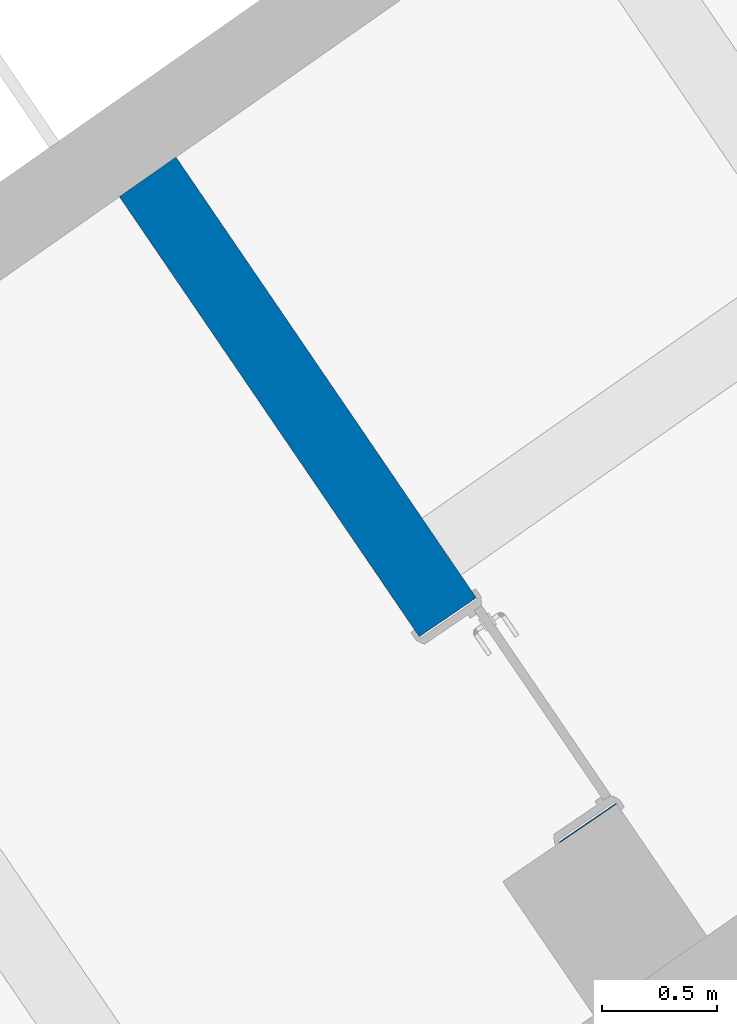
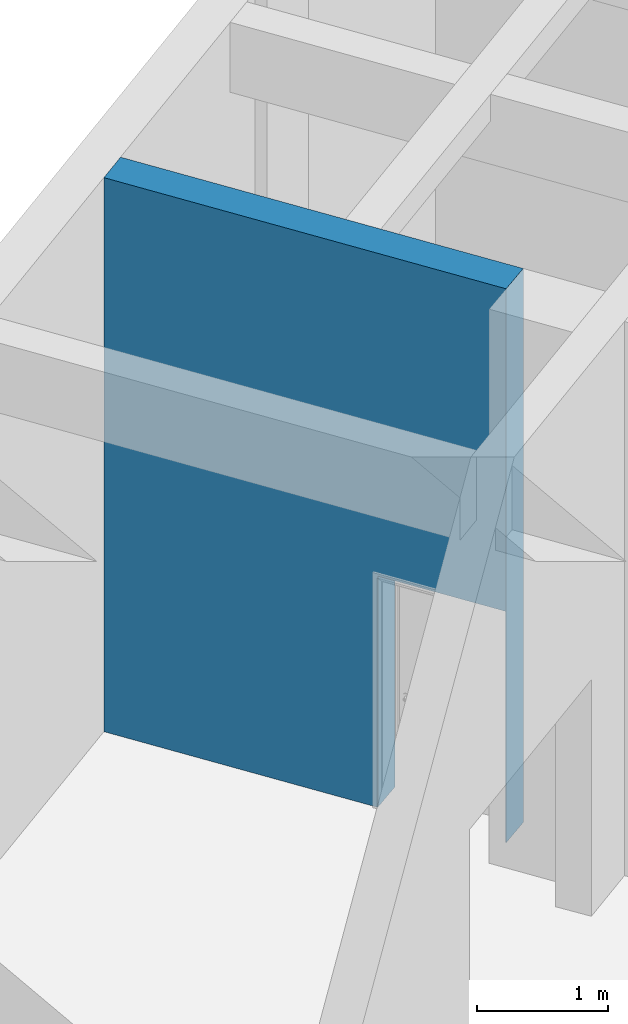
# One storey, part 94 of 157: 1 wall, 1 opening.
"""IFC2X3 building model written with IfcOpenShell, lengths in millimetres."""

from ifc_helpers import new_model, entity, si_unit, converted_unit, derived_unit, direction, frame, frame_2d, origin, place, context, subcontext, project, spatial, polyline, rectangle, outline, extrude, material, layer, layer_set, layer_usage, type_object, element, save


model = new_model("IFC2X3")

# Units and contexts
model_context = context("Model", 3, precision=0.01, world=origin(), true_north=direction((6.123031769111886e-17, 1.0)))
body_context = subcontext(model_context, "Body", "Model", "MODEL_VIEW")
ifc_project = project(units=[si_unit("LENGTHUNIT", "METRE", prefix="MILLI"), si_unit("AREAUNIT", "SQUARE_METRE"), si_unit("VOLUMEUNIT", "CUBIC_METRE"), converted_unit("PLANEANGLEUNIT", "DEGREE", entity("IfcRatioMeasure", 0.017453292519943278), si_unit("PLANEANGLEUNIT", "RADIAN"), dimensions=[0, 0, 0, 0, 0, 0, 0]), si_unit("MASSUNIT", "GRAM", prefix="KILO"), derived_unit("MASSDENSITYUNIT", [(si_unit("MASSUNIT", "GRAM", prefix="KILO"), 1), (si_unit("LENGTHUNIT", "METRE"), -3)]), derived_unit("MOMENTOFINERTIAUNIT", [(si_unit("LENGTHUNIT", "METRE"), 4)]), si_unit("TIMEUNIT", "SECOND"), si_unit("FREQUENCYUNIT", "HERTZ"), si_unit("THERMODYNAMICTEMPERATUREUNIT", "DEGREE_CELSIUS"), derived_unit("THERMALTRANSMITTANCEUNIT", [(si_unit("MASSUNIT", "GRAM", prefix="KILO"), 1), (si_unit("THERMODYNAMICTEMPERATUREUNIT", "KELVIN"), -1), (si_unit("TIMEUNIT", "SECOND"), -3)]), derived_unit("THERMALCONDUCTANCEUNIT", [(si_unit("MASSUNIT", "GRAM", prefix="KILO"), 1), (si_unit("LENGTHUNIT", "METRE"), 1), (si_unit("THERMODYNAMICTEMPERATUREUNIT", "KELVIN"), -1), (si_unit("TIMEUNIT", "SECOND"), -3)]), derived_unit("VOLUMETRICFLOWRATEUNIT", [(si_unit("LENGTHUNIT", "METRE"), 3), (si_unit("TIMEUNIT", "SECOND"), -1)]), derived_unit("MASSFLOWRATEUNIT", [(si_unit("MASSUNIT", "GRAM", prefix="KILO"), 1), (si_unit("TIMEUNIT", "SECOND"), -1)]), derived_unit("ROTATIONALFREQUENCYUNIT", [(si_unit("TIMEUNIT", "SECOND"), -1)]), si_unit("ELECTRICCURRENTUNIT", "AMPERE"), si_unit("ELECTRICVOLTAGEUNIT", "VOLT"), si_unit("POWERUNIT", "WATT"), converted_unit("FORCEUNIT", "KIP", entity("IfcRatioMeasure", 2.088543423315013e-05), si_unit("FORCEUNIT", "NEWTON"), dimensions=[1, 1, -2, 0, 0, 0, 0]), si_unit("ILLUMINANCEUNIT", "LUX"), si_unit("LUMINOUSFLUXUNIT", "LUMEN"), si_unit("LUMINOUSINTENSITYUNIT", "CANDELA"), derived_unit("USERDEFINED", [(si_unit("MASSUNIT", "GRAM", prefix="KILO"), -1), (si_unit("LENGTHUNIT", "METRE"), -2), (si_unit("TIMEUNIT", "SECOND"), 3), (si_unit("LUMINOUSFLUXUNIT", "LUMEN"), 1)]), derived_unit("USERDEFINED", [(si_unit("MASSUNIT", "GRAM", prefix="KILO"), 1), (si_unit("LENGTHUNIT", "METRE"), 3), (si_unit("TIMEUNIT", "SECOND"), -3), (si_unit("ELECTRICCURRENTUNIT", "AMPERE"), -2)]), derived_unit("USERDEFINED", [(si_unit("LENGTHUNIT", "METRE"), 2), (si_unit("TIMEUNIT", "SECOND"), -2)]), derived_unit("SOUNDPOWERUNIT", [(si_unit("MASSUNIT", "GRAM", prefix="KILO"), 1), (si_unit("LENGTHUNIT", "METRE"), 2), (si_unit("TIMEUNIT", "SECOND"), -3)]), derived_unit("SOUNDPRESSUREUNIT", [(si_unit("MASSUNIT", "GRAM", prefix="KILO"), 1), (si_unit("LENGTHUNIT", "METRE"), -1), (si_unit("TIMEUNIT", "SECOND"), -2)]), derived_unit("LINEARVELOCITYUNIT", [(si_unit("LENGTHUNIT", "METRE"), 1), (si_unit("TIMEUNIT", "SECOND"), -1)]), si_unit("PRESSUREUNIT", "PASCAL"), derived_unit("USERDEFINED", [(si_unit("LENGTHUNIT", "METRE"), -2), (si_unit("MASSUNIT", "GRAM", prefix="KILO"), 1), (si_unit("TIMEUNIT", "SECOND"), -2)]), derived_unit("LINEARFORCEUNIT", [(si_unit("MASSUNIT", "GRAM", prefix="KILO"), 1), (si_unit("LENGTHUNIT", "METRE"), 1), (si_unit("TIMEUNIT", "SECOND"), -2), (si_unit("LENGTHUNIT", "METRE"), -1)]), derived_unit("PLANARFORCEUNIT", [(si_unit("MASSUNIT", "GRAM", prefix="KILO"), 1), (si_unit("LENGTHUNIT", "METRE"), 1), (si_unit("TIMEUNIT", "SECOND"), -2), (si_unit("LENGTHUNIT", "METRE"), -2)]), derived_unit("SPECIFICHEATCAPACITYUNIT", [(si_unit("LENGTHUNIT", "METRE"), 2), (si_unit("TIMEUNIT", "SECOND"), -2), (si_unit("THERMODYNAMICTEMPERATUREUNIT", "KELVIN"), -1)]), derived_unit("VAPORPERMEABILITYUNIT", [(si_unit("TIMEUNIT", "SECOND"), 1), (si_unit("LENGTHUNIT", "METRE"), -1)]), derived_unit("DYNAMICVISCOSITYUNIT", [(si_unit("MASSUNIT", "GRAM", prefix="KILO"), 1), (si_unit("LENGTHUNIT", "METRE"), -1), (si_unit("TIMEUNIT", "SECOND"), -1)]), derived_unit("THERMALEXPANSIONCOEFFICIENTUNIT", [(si_unit("THERMODYNAMICTEMPERATUREUNIT", "KELVIN"), -1)])], contexts=[model_context])

# Site, building, storey
site_placement = place(None, frame((0.0, 0.0, 0.0), z_axis=(0.0, 0.0, 1.0), x_axis=(0.8191520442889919, 0.5735764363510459, 0.0)))
site = spatial("IfcSite", under=ifc_project, at=site_placement, Name="Default", CompositionType="ELEMENT")
building_placement = place(site_placement, origin())
building = spatial("IfcBuilding", under=site, at=building_placement, CompositionType="ELEMENT")
storey_placement = place(building_placement, origin())
storey = spatial("IfcBuildingStorey", under=building, at=storey_placement, Name="1.EG +0.00", CompositionType="ELEMENT", Elevation=-4.331468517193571e-12)

# Wall, opening
ifc_material = material(Name="Analytical Wall Surface_CJC")
ifc_layer = layer(ifc_material, 300.0)
ifc_layer_set = layer_set([ifc_layer], Name="Basic Wall:Wand_Innen_30")
ifc_layer_usage = layer_usage(ifc_layer_set, "AXIS2", "NEGATIVE", 150.0)
wall_type = type_object("IfcWallType", Name="Basic Wall:Wand_Innen_30", PredefinedType="STANDARD", material=ifc_layer_set)
wall_placement = place(storey_placement, frame((-216240.53825223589, 169269.44963091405, 0.0), z_axis=(0.0, 0.0, 1.0), x_axis=(0.012729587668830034, 0.9999189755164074, 0.0)))
wall = element("IfcWallStandardCase", 1, at=wall_placement, inside=storey, type_object=wall_type, material=ifc_layer_usage, Name="Basic Wall:Wand_Innen_30", ObjectType="Basic Wall:Wand_Innen_30", context=body_context, shape_type="SweptSolid", body=[
    extrude(outline(polyline([(0.0, -150.0), (1203.916268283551, -150.0), (1503.9405775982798, -150.0), (3404.094536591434, -150.0), (3400.2753508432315, 150.0), (0.0, 150.0), (0.0, -150.0)])), origin(), (0.0, 0.0, 1.0), 5150.000000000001),
])
opening_placement = place(wall_placement, frame((1085.0, 150.0, 0.0)))
element("IfcOpeningElement", 2, at=opening_placement, cuts=wall, Name="Doors_IntSgl:100x210:1", ObjectType="Opening", context=body_context, shape_type="SweptSolid", body=[
    extrude(rectangle(XDim=2150.000000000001, YDim=1079.9999999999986, at=frame_2d((1075.0000000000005, 539.9999999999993), x_axis=(1.0, 0.0))), frame((0.0, 0.0, 0.0), z_axis=(0.0, -1.0, 0.0), x_axis=(0.0, 0.0, 1.0)), (0.0, 0.0, 1.0), 299.9999999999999),
])

save(model, "model.ifc")
